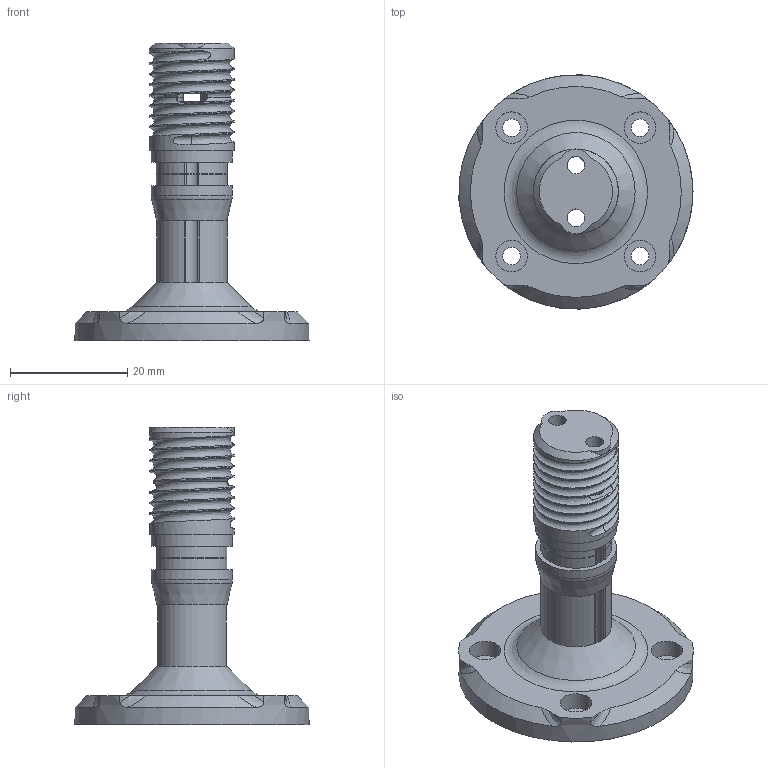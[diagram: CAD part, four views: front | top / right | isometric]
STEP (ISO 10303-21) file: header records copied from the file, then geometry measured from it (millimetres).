
FILE_DESCRIPTION(/* description */ ('CAx-IF Rec.Pracs.---Representation and Presentation of Product Manufacturing Information (PMI)---4.0---2014-10-13','CAx-IF Rec.Pracs.---3D Tessellated Geometry---0.4---2014-09-14','2;1'),/* implementation_level */ '2;1');
FILE_NAME(/* name */ 'qc1_p12_small_reel',/* time_stamp */ '2026-07-26T00:50:53+03:00',/* author */ (''),/* organization */ (''),/* preprocessor_version */ 'ST-DEVELOPER v19.4',/* originating_system */ 'SIEMENS PLM Software NX2306.1700',/* authorisation */ $);
FILE_SCHEMA (('AP242_MANAGED_MODEL_BASED_3D_ENGINEERING_MIM_LF { 1 0 10303 442 3 1 4 }'));
Length unit declared in the file: millimetre
Products named in the file (1): qc1_p12_small_reel
Bounding box: 39.95 x 39.97 x 50.85 mm (x, y, z)
Volume: 11376.4 mm3; surface area: 6803.9 mm2
Topology: 3 solids, 3 shells, 148 faces, 411 edges, 270 vertices
Faces by surface type: cylinder 81, plane 47, bspline 10, cone 8, torus 2
Full cylindrical faces by diameter (mm): 3.01 x9, 3.02 x1, 3.9 x1, 5.4 x4, 13.86 x2, 14.5 x8, 40 x1
Entity records: 5849 total; most frequent: CARTESIAN_POINT 2443, DIRECTION 696, ORIENTED_EDGE 690, EDGE_CURVE 345, AXIS2_PLACEMENT_3D 299, VERTEX_POINT 238, EDGE_LOOP 191, FACE_BOUND 191
